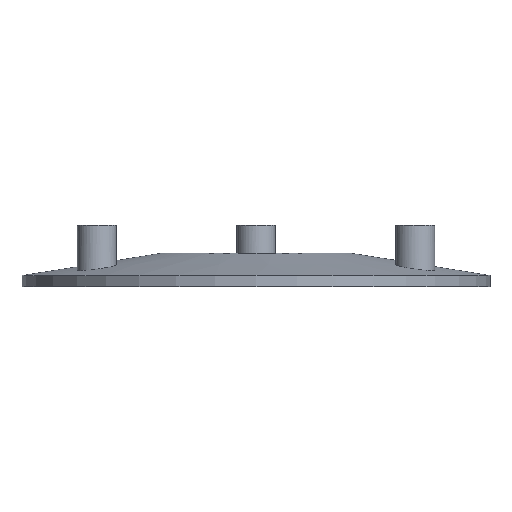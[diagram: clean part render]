
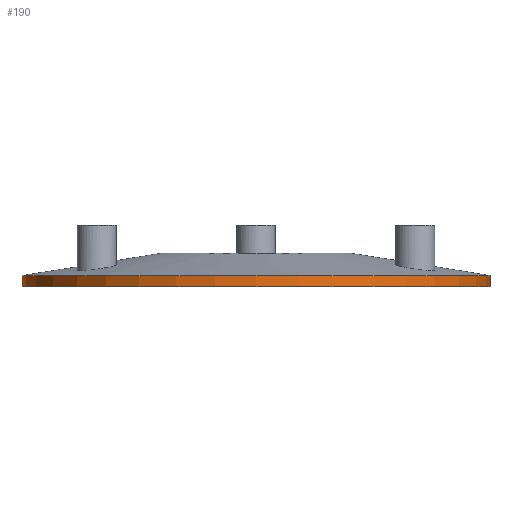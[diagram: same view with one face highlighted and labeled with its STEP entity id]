
A CAD part, front view. The second image highlights one B-rep face of the part: STEP entity #190.
In plain terms, the highlighted cylindrical face has radius 42 mm (diameter 84 mm), a full revolution.
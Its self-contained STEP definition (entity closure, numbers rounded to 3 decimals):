
#21 = EDGE_CURVE('',#22,#22,#24,.T.);
#22 = VERTEX_POINT('',#23);
#23 = CARTESIAN_POINT('',(42.,0.,0.));
#24 = SURFACE_CURVE('',#25,(#30,#42),.PCURVE_S1.);
#25 = CIRCLE('',#26,42.);
#26 = AXIS2_PLACEMENT_3D('',#27,#28,#29);
#27 = CARTESIAN_POINT('',(0.,0.,0.));
#28 = DIRECTION('',(0.,0.,1.));
#29 = DIRECTION('',(1.,0.,-0.));
#30 = PCURVE('',#31,#36);
#31 = PLANE('',#32);
#32 = AXIS2_PLACEMENT_3D('',#33,#34,#35);
#33 = CARTESIAN_POINT('',(0.,0.,0.));
#34 = DIRECTION('',(0.,0.,1.));
#35 = DIRECTION('',(1.,0.,-0.));
#36 = DEFINITIONAL_REPRESENTATION('',(#37),#41);
#37 = CIRCLE('',#38,42.);
#38 = AXIS2_PLACEMENT_2D('',#39,#40);
#39 = CARTESIAN_POINT('',(0.,0.));
#40 = DIRECTION('',(1.,-0.));
#41 = ( GEOMETRIC_REPRESENTATION_CONTEXT(2) 
PARAMETRIC_REPRESENTATION_CONTEXT() REPRESENTATION_CONTEXT('2D SPACE',''
  ) );
#42 = PCURVE('',#43,#48);
#43 = CYLINDRICAL_SURFACE('',#44,42.);
#44 = AXIS2_PLACEMENT_3D('',#45,#46,#47);
#45 = CARTESIAN_POINT('',(0.,0.,0.));
#46 = DIRECTION('',(0.,0.,1.));
#47 = DIRECTION('',(1.,0.,-0.));
#48 = DEFINITIONAL_REPRESENTATION('',(#49),#53);
#49 = LINE('',#50,#51);
#50 = CARTESIAN_POINT('',(0.,0.));
#51 = VECTOR('',#52,1.);
#52 = DIRECTION('',(1.,0.));
#53 = ( GEOMETRIC_REPRESENTATION_CONTEXT(2) 
PARAMETRIC_REPRESENTATION_CONTEXT() REPRESENTATION_CONTEXT('2D SPACE',''
  ) );
#190 = ADVANCED_FACE('',(#191),#43,.T.);
#191 = FACE_BOUND('',#192,.T.);
#192 = EDGE_LOOP('',(#193,#194,#217,#244));
#193 = ORIENTED_EDGE('',*,*,#21,.T.);
#194 = ORIENTED_EDGE('',*,*,#195,.T.);
#195 = EDGE_CURVE('',#22,#196,#198,.T.);
#196 = VERTEX_POINT('',#197);
#197 = CARTESIAN_POINT('',(42.,0.,2.));
#198 = SEAM_CURVE('',#199,(#203,#210),.PCURVE_S1.);
#199 = LINE('',#200,#201);
#200 = CARTESIAN_POINT('',(42.,0.,0.));
#201 = VECTOR('',#202,1.);
#202 = DIRECTION('',(0.,0.,1.));
#203 = PCURVE('',#43,#204);
#204 = DEFINITIONAL_REPRESENTATION('',(#205),#209);
#205 = LINE('',#206,#207);
#206 = CARTESIAN_POINT('',(0.,0.));
#207 = VECTOR('',#208,1.);
#208 = DIRECTION('',(0.,1.));
#209 = ( GEOMETRIC_REPRESENTATION_CONTEXT(2) 
PARAMETRIC_REPRESENTATION_CONTEXT() REPRESENTATION_CONTEXT('2D SPACE',''
  ) );
#210 = PCURVE('',#43,#211);
#211 = DEFINITIONAL_REPRESENTATION('',(#212),#216);
#212 = LINE('',#213,#214);
#213 = CARTESIAN_POINT('',(6.283,0.));
#214 = VECTOR('',#215,1.);
#215 = DIRECTION('',(0.,1.));
#216 = ( GEOMETRIC_REPRESENTATION_CONTEXT(2) 
PARAMETRIC_REPRESENTATION_CONTEXT() REPRESENTATION_CONTEXT('2D SPACE',''
  ) );
#217 = ORIENTED_EDGE('',*,*,#218,.F.);
#218 = EDGE_CURVE('',#196,#196,#219,.T.);
#219 = SURFACE_CURVE('',#220,(#225,#232),.PCURVE_S1.);
#220 = CIRCLE('',#221,42.);
#221 = AXIS2_PLACEMENT_3D('',#222,#223,#224);
#222 = CARTESIAN_POINT('',(0.,0.,2.));
#223 = DIRECTION('',(0.,0.,1.));
#224 = DIRECTION('',(1.,0.,-0.));
#225 = PCURVE('',#43,#226);
#226 = DEFINITIONAL_REPRESENTATION('',(#227),#231);
#227 = LINE('',#228,#229);
#228 = CARTESIAN_POINT('',(0.,2.));
#229 = VECTOR('',#230,1.);
#230 = DIRECTION('',(1.,0.));
#231 = ( GEOMETRIC_REPRESENTATION_CONTEXT(2) 
PARAMETRIC_REPRESENTATION_CONTEXT() REPRESENTATION_CONTEXT('2D SPACE',''
  ) );
#232 = PCURVE('',#233,#238);
#233 = CONICAL_SURFACE('',#234,42.,1.412);
#234 = AXIS2_PLACEMENT_3D('',#235,#236,#237);
#235 = CARTESIAN_POINT('',(0.,0.,2.));
#236 = DIRECTION('',(-0.,-0.,-1.));
#237 = DIRECTION('',(1.,0.,-0.));
#238 = DEFINITIONAL_REPRESENTATION('',(#239),#243);
#239 = LINE('',#240,#241);
#240 = CARTESIAN_POINT('',(-0.,-0.));
#241 = VECTOR('',#242,1.);
#242 = DIRECTION('',(-1.,-0.));
#243 = ( GEOMETRIC_REPRESENTATION_CONTEXT(2) 
PARAMETRIC_REPRESENTATION_CONTEXT() REPRESENTATION_CONTEXT('2D SPACE',''
  ) );
#244 = ORIENTED_EDGE('',*,*,#195,.F.);
